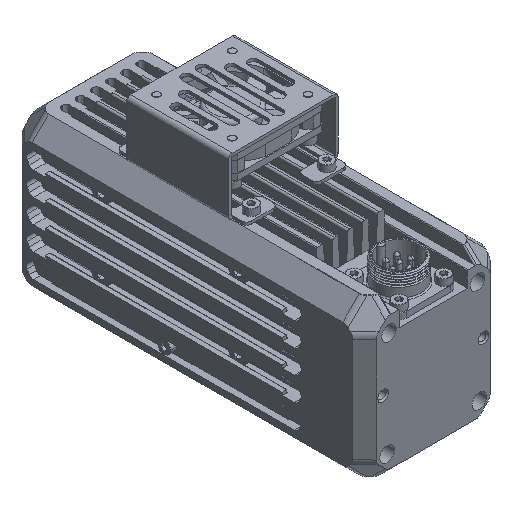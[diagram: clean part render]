
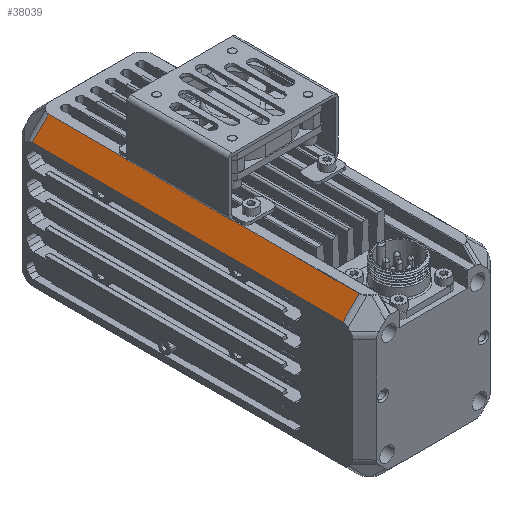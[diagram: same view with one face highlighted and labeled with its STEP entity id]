
A CAD part, isometric view. The second image highlights one B-rep face of the part: STEP entity #38039.
In plain terms, the highlighted planar face has unit normal (-0.707, 0, 0.707).
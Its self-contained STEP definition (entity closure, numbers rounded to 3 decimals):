
#2613=DIRECTION('',(0.,1.,0.));
#2614=VECTOR('',#2613,105.758);
#2615=CARTESIAN_POINT('',(-22.,-50.,0.));
#2616=LINE('',#2615,#2614);
#3371=DIRECTION('',(-0.707,0.,-0.707));
#3372=VECTOR('',#3371,0.083);
#3373=CARTESIAN_POINT('',(-22.,-50.,0.));
#3374=LINE('',#3373,#3372);
#3969=DIRECTION('',(-0.707,0.,-0.707));
#3970=VECTOR('',#3969,9.817);
#3971=CARTESIAN_POINT('',(-22.059,-75.758,
-0.059));
#3972=LINE('',#3971,#3970);
#3985=CARTESIAN_POINT('',(-29.,-75.758,-7.));
#3991=DIRECTION('',(0.,1.,0.));
#3992=VECTOR('',#3991,131.515);
#3993=CARTESIAN_POINT('',(-29.,-75.758,-7.));
#3994=LINE('',#3993,#3992);
#3999=DIRECTION('',(0.,-1.,0.));
#4000=VECTOR('',#3999,25.758);
#4001=CARTESIAN_POINT('',(-22.059,-50.,-0.059));
#4002=LINE('',#4001,#4000);
#4396=CARTESIAN_POINT('',(-29.,55.758,-7.));
#14554=DIRECTION('',(0.707,0.,0.707));
#14555=VECTOR('',#14554,9.899);
#14556=CARTESIAN_POINT('',(-29.,55.758,-7.));
#14557=LINE('',#14556,#14555);
#14562=CARTESIAN_POINT('',(-22.,55.758,0.));
#25778=VERTEX_POINT('',#4396);
#25779=VERTEX_POINT('',#14562);
#26511=VERTEX_POINT('',#3985);
#26579=CARTESIAN_POINT('',(-22.059,-75.758,
-0.059));
#26580=VERTEX_POINT('',#26579);
#30474=CARTESIAN_POINT('',(-22.,-50.,0.));
#30475=VERTEX_POINT('',#30474);
#30579=CARTESIAN_POINT('',(-22.059,-50.,-0.059));
#30581=VERTEX_POINT('',#30579);
#38023=CARTESIAN_POINT('',(-29.,-50.,-7.));
#38024=DIRECTION('',(-0.707,0.,0.707));
#38025=DIRECTION('',(0.707,0.,0.707));
#38026=AXIS2_PLACEMENT_3D('',#38023,#38024,#38025);
#38027=PLANE('',#38026);
#38028=ORIENTED_EDGE('',*,*,#36788,.T.);
#38030=ORIENTED_EDGE('',*,*,#38029,.T.);
#38031=ORIENTED_EDGE('',*,*,#38006,.T.);
#38033=ORIENTED_EDGE('',*,*,#38032,.T.);
#38035=ORIENTED_EDGE('',*,*,#38034,.T.);
#38036=ORIENTED_EDGE('',*,*,#35857,.F.);
#38037=EDGE_LOOP('',(#38028,#38030,#38031,#38033,#38035,#38036));
#38038=FACE_OUTER_BOUND('',#38037,.F.);
#35857=EDGE_CURVE('',#30475,#25779,#2616,.T.);
#36788=EDGE_CURVE('',#30475,#30581,#3374,.T.);
#38006=EDGE_CURVE('',#26580,#26511,#3972,.T.);
#38029=EDGE_CURVE('',#30581,#26580,#4002,.T.);
#38032=EDGE_CURVE('',#26511,#25778,#3994,.T.);
#38034=EDGE_CURVE('',#25778,#25779,#14557,.T.);
#38039=ADVANCED_FACE('',(#38038),#38027,.T.);
